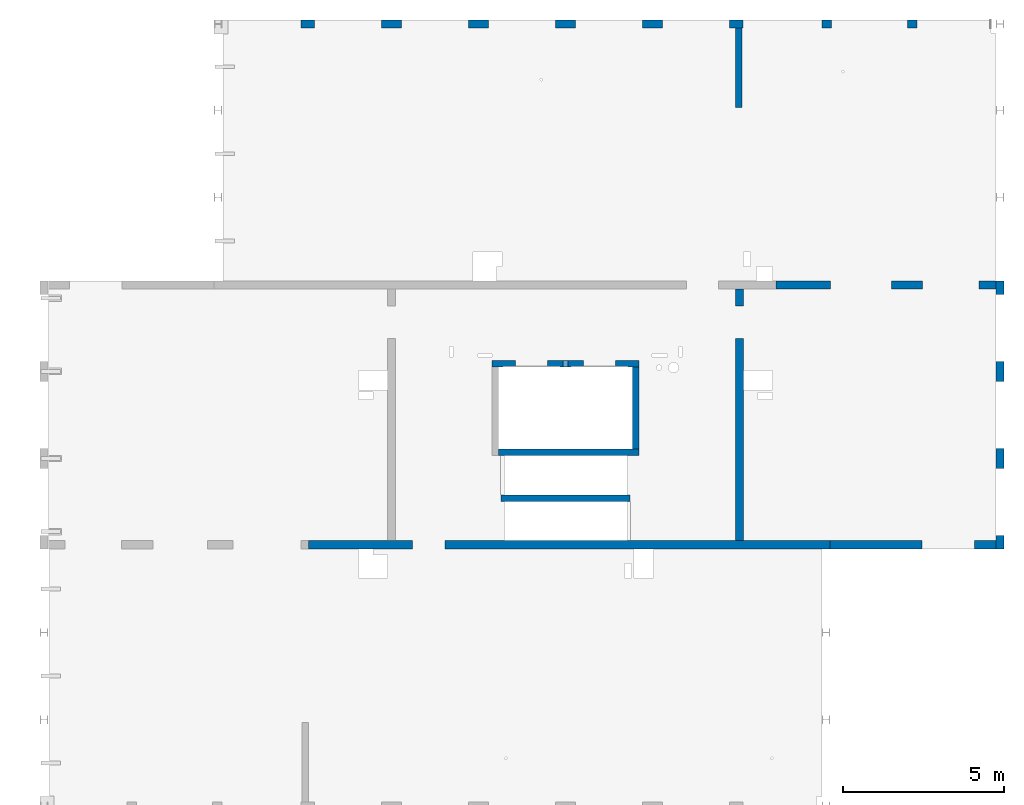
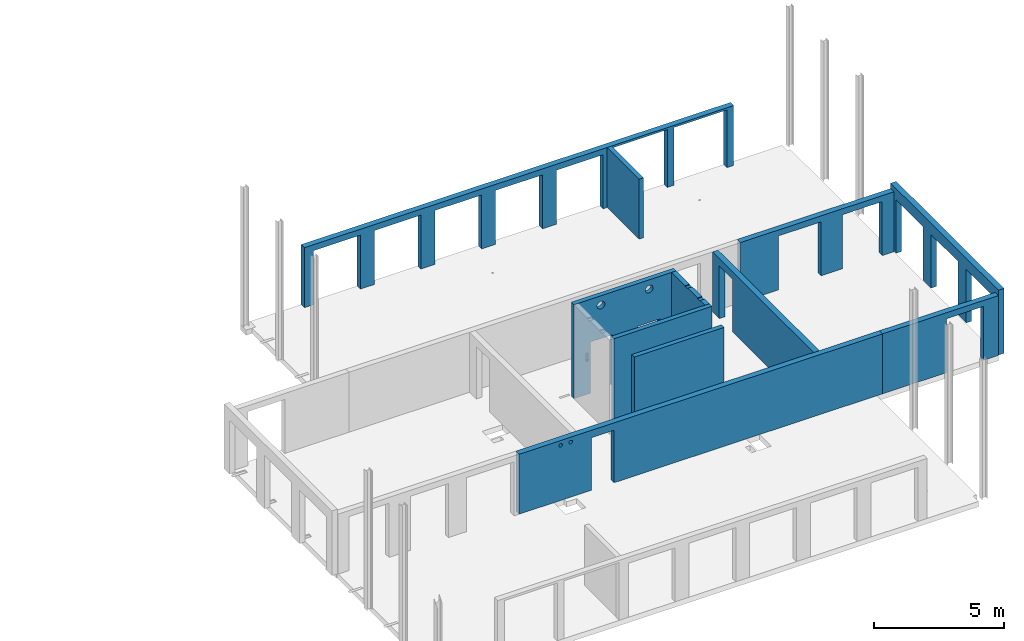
# One storey, part 8 of 10: 11 walls, 25 openings.
"""IFC2X3 building model written with IfcOpenShell, lengths in millimetres."""

import ifcopenshell
import ifcopenshell.guid

model = None  # the IFC model being written
_history = None  # IfcOwnerHistory: only IFC2X3 demands one
_inside = {}  # id of a spatial element -> (the spatial element, [elements in it])
_under = {}  # id of a project, library or spatial element -> (it, [spatial elements below it])
_declared = {}  # id of a project -> (the project, [libraries it declares])
_typed = {}  # id of a type object -> (the type object, [elements of that type])
_made_of = {}  # id of a material, layer set ... -> (it, [elements and type objects made of it])


def new_model(schema):
    """Start an empty IFC model of exactly this schema.

    Asked for "IFC4X3", IfcOpenShell would pick the latest addendum, in which some entities
    have other attributes; the version numbers below select the first issue.
    IFC2X3 requires an IfcOwnerHistory on every rooted entity: one is made here for all.
    """
    global model, _history
    if schema == "IFC4X3":
        model = ifcopenshell.file(schema_version=(4, 3, 0, 0))
    else:
        model = ifcopenshell.file(schema=schema)
    _inside.clear()
    _under.clear()
    _declared.clear()
    _typed.clear()
    _made_of.clear()
    _history = None
    if model.schema == "IFC2X3":
        org = make("IfcOrganization", Name="unknown")
        user = make(
            "IfcPersonAndOrganization",
            ThePerson=make("IfcPerson", FamilyName="unknown"),
            TheOrganization=org,
        )
        app = make(
            "IfcApplication",
            ApplicationDeveloper=org,
            Version="unknown",
            ApplicationFullName="unknown",
            ApplicationIdentifier="unknown",
        )
        _history = make(
            "IfcOwnerHistory",
            OwningUser=user,
            OwningApplication=app,
            ChangeAction="ADDED",
            CreationDate=0,
        )
    return model


def make(cls, **values):
    """One entity of the class cls with the attributes given. An attribute that is None is left unset."""
    return model.create_entity(
        cls, **{name: value for name, value in values.items() if value is not None}
    )


def entity(cls, *values):
    """Any entity or typed value of the class cls, its attributes in the order of the schema. None: left unset."""
    e = model.create_entity(cls)
    for i, value in enumerate(values):
        if value is not None:
            e[i] = value
    return e


def rooted(cls, **values):
    """An entity with a GlobalId (a new one), such as an element, a storey or a relation."""
    return make(cls, GlobalId=ifcopenshell.guid.new(), OwnerHistory=_history, **values)


def si_unit(unit_type, name, prefix=None):
    """IfcSIUnit, for example si_unit("LENGTHUNIT", "METRE", prefix="MILLI")."""
    return make("IfcSIUnit", UnitType=unit_type, Prefix=prefix, Name=name)


def converted_unit(unit_type, name, factor, base, dimensions=None, offset=None):
    """IfcConversionBasedUnit, such as the inch: factor (a typed value) times the base unit."""
    return make(
        "IfcConversionBasedUnit"
        if offset is None
        else "IfcConversionBasedUnitWithOffset",
        ConversionOffset=offset,
        Dimensions=None
        if dimensions is None
        else entity("IfcDimensionalExponents", *dimensions),
        UnitType=unit_type,
        Name=name,
        ConversionFactor=make(
            "IfcMeasureWithUnit", ValueComponent=factor, UnitComponent=base
        ),
    )


def derived_unit(unit_type, elements):
    """IfcDerivedUnit: a product of units, each with its exponent."""
    return make(
        "IfcDerivedUnit",
        Elements=[
            make("IfcDerivedUnitElement", Unit=unit, Exponent=power)
            for unit, power in elements
        ],
        UnitType=unit_type,
    )


def assignment(units):
    """IfcUnitAssignment: the units of a project."""
    return None if units is None else make("IfcUnitAssignment", Units=units)


def point(xyz):
    """IfcCartesianPoint."""
    return None if xyz is None else make("IfcCartesianPoint", Coordinates=xyz)


def direction(xyz):
    """IfcDirection."""
    return None if xyz is None else make("IfcDirection", DirectionRatios=xyz)


def frame(location, z_axis=None, x_axis=None):
    """IfcAxis2Placement3D, a coordinate frame: its origin and axes. An axis left out is left unset."""
    return make(
        "IfcAxis2Placement3D",
        Location=point(location),
        Axis=direction(z_axis),
        RefDirection=direction(x_axis),
    )


def frame_2d(location, x_axis=None):
    """IfcAxis2Placement2D, a coordinate frame in the plane: its origin and x axis."""
    return make(
        "IfcAxis2Placement2D", Location=point(location), RefDirection=direction(x_axis)
    )


def origin():
    """The frame at (0, 0, 0) with its axes left unset."""
    return frame((0.0, 0.0, 0.0))


def origin_2d_with_axis():
    """The frame at (0, 0) in the plane with the x axis (1, 0) written out."""
    return frame_2d((0.0, 0.0), x_axis=(1.0, 0.0))


def place(relative_to, where):
    """IfcLocalPlacement: puts the frame where relative to a parent placement (None: the world)."""
    return make(
        "IfcLocalPlacement", PlacementRelTo=relative_to, RelativePlacement=where
    )


def context(
    kind, dimensions, precision=None, world=None, true_north=None, identifier=None
):
    """IfcGeometricRepresentationContext, for example the 3D "Model" context."""
    return make(
        "IfcGeometricRepresentationContext",
        ContextIdentifier=identifier,
        ContextType=kind,
        CoordinateSpaceDimension=dimensions,
        Precision=precision,
        WorldCoordinateSystem=world,
        TrueNorth=true_north,
    )


def subcontext(parent, identifier, kind, view, scale=None):
    """IfcGeometricRepresentationSubContext, for example "Body" below "Model"."""
    return make(
        "IfcGeometricRepresentationSubContext",
        ContextIdentifier=identifier,
        ContextType=kind,
        ParentContext=parent,
        TargetScale=scale,
        TargetView=view,
    )


def project(units=None, contexts=None):
    """IfcProject with its units and contexts."""
    return rooted(
        "IfcProject",
        Name="project",
        RepresentationContexts=contexts,
        UnitsInContext=assignment(units),
    )


def spatial(cls, under=None, at=None, **own):
    """A site, building, storey or space (cls), placed at a placement, below another one or the project."""
    s = rooted(cls, ObjectPlacement=at, **own)
    if under is not None:
        _under.setdefault(under.id(), (under, []))[1].append(s)
    return s


def profile(cls, at=None, kind="AREA", **sizes):
    """A parametric profile (cls). Its sizes go by their IFC names, for example OverallWidth=200.0."""
    return make(cls, ProfileType=kind, Position=at, **sizes)


def rectangle(**sizes):
    """IfcRectangleProfileDef."""
    return profile("IfcRectangleProfileDef", **sizes)


def circle(**sizes):
    """IfcCircleProfileDef."""
    return profile("IfcCircleProfileDef", **sizes)


def extrude(swept, where, along, depth):
    """IfcExtrudedAreaSolid: the profile swept, set in the frame where, extruded along a direction by depth."""
    return make(
        "IfcExtrudedAreaSolid",
        SweptArea=swept,
        Position=where,
        ExtrudedDirection=direction(along),
        Depth=depth,
    )


def shape(context_of_items, identifier, shape_type, items):
    """IfcShapeRepresentation: the items that make up one representation, for example the "Body"."""
    return make(
        "IfcShapeRepresentation",
        ContextOfItems=context_of_items,
        RepresentationIdentifier=identifier,
        RepresentationType=shape_type,
        Items=items,
    )


def material(Name=None, Category=None):
    """IfcMaterial."""
    return make("IfcMaterial", Name=Name, Category=Category)


def layer(
    of_material, thickness, ventilated=None, Name=None, Category=None, Priority=None
):
    """IfcMaterialLayer: one layer of a wall or slab, of a material (None: an air gap)."""
    return make(
        "IfcMaterialLayer",
        Material=of_material,
        LayerThickness=thickness,
        IsVentilated=ventilated,
        Name=Name,
        Category=Category,
        Priority=Priority,
    )


def layer_set(layers, Name=None):
    """IfcMaterialLayerSet."""
    return make("IfcMaterialLayerSet", MaterialLayers=layers, LayerSetName=Name)


def layer_usage(for_layer_set, set_direction, sense, offset, extent=None):
    """IfcMaterialLayerSetUsage: how a layer set lies in its element."""
    return make(
        "IfcMaterialLayerSetUsage",
        ForLayerSet=for_layer_set,
        LayerSetDirection=set_direction,
        DirectionSense=sense,
        OffsetFromReferenceLine=offset,
        ReferenceExtent=extent,
    )


def made_of(thing, what):
    """Note that an element or type object is made of a material, layer set ...; save() writes the relation."""
    if what is not None:
        _made_of.setdefault(what.id(), (what, []))[1].append(thing)
    return thing


def type_object(cls, material=None, **own):
    """A type object (cls), such as IfcWallType, which elements share."""
    return made_of(rooted(cls, **own), material)


def element(
    cls,
    number,
    at=None,
    inside=None,
    cuts=None,
    type_object=None,
    material=None,
    context=None,
    identifier="Body",
    shape_type=None,
    held_by="IfcProductDefinitionShape",
    body=None,
    shapes=None,
    **own,
):
    """One element of the class cls, such as IfcWall. Its Tag is "e" and its number.

    at: its placement. inside: the storey or other place that contains it. cuts: it is an
    opening in that element (IfcRelVoidsElement). A single representation is given by context,
    identifier, shape_type and body (its items); several are given by shapes. held_by: the class
    of the entity that holds the representations. save() writes the other relations.
    """
    e = rooted(cls, Tag="e%d" % number, ObjectPlacement=at, **own)
    if body is not None:
        shapes = [shape(context, identifier, shape_type, body)]
    if shapes is not None:
        e.Representation = make(held_by, Representations=shapes)
    if inside is not None:
        _inside.setdefault(inside.id(), (inside, []))[1].append(e)
    if cuts is not None:
        rooted(
            "IfcRelVoidsElement", RelatingBuildingElement=cuts, RelatedOpeningElement=e
        )
    if type_object is not None:
        _typed.setdefault(type_object.id(), (type_object, []))[1].append(e)
    return made_of(e, material)


def aggregate(whole, parts):
    """IfcRelAggregates: a whole, such as a stair, and the parts it consists of."""
    return rooted("IfcRelAggregates", RelatingObject=whole, RelatedObjects=parts)


def save(model, path):
    """Write the relations noted so far, then the file.

    IfcRelAggregates (storeys below a building ...), IfcRelContainedInSpatialStructure (elements
    in a storey), IfcRelDefinesByType, IfcRelAssociatesMaterial and IfcRelDeclares: one each for
    every whole, place, type object, material and project.
    """
    for whole, parts in _under.values():
        aggregate(whole, parts)
    for where, things in _inside.values():
        rooted(
            "IfcRelContainedInSpatialStructure",
            RelatedElements=things,
            RelatingStructure=where,
        )
    for kind, things in _typed.values():
        rooted("IfcRelDefinesByType", RelatedObjects=things, RelatingType=kind)
    for what, things in _made_of.values():
        rooted("IfcRelAssociatesMaterial", RelatedObjects=things, RelatingMaterial=what)
    for by, libraries in _declared.values():
        rooted("IfcRelDeclares", RelatingContext=by, RelatedDefinitions=libraries)
    model.write(path)


model = new_model("IFC2X3")

# Units and contexts
model_context = context("Model", 3, precision=0.01, world=origin(), true_north=direction((6.12303176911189e-17, 1.0)))
body_context = subcontext(model_context, "Body", "Model", "MODEL_VIEW")
ifc_project = project(units=[si_unit("LENGTHUNIT", "METRE", prefix="MILLI"), si_unit("AREAUNIT", "SQUARE_METRE"), si_unit("VOLUMEUNIT", "CUBIC_METRE"), converted_unit("PLANEANGLEUNIT", "DEGREE", entity("IfcRatioMeasure", 0.0174532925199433), si_unit("PLANEANGLEUNIT", "RADIAN"), dimensions=[0, 0, 0, 0, 0, 0, 0]), si_unit("MASSUNIT", "GRAM", prefix="KILO"), derived_unit("MASSDENSITYUNIT", [(si_unit("MASSUNIT", "GRAM", prefix="KILO"), 1), (si_unit("LENGTHUNIT", "METRE"), -3)]), si_unit("TIMEUNIT", "SECOND"), si_unit("FREQUENCYUNIT", "HERTZ"), si_unit("THERMODYNAMICTEMPERATUREUNIT", "DEGREE_CELSIUS"), derived_unit("THERMALTRANSMITTANCEUNIT", [(si_unit("MASSUNIT", "GRAM", prefix="KILO"), 1), (si_unit("THERMODYNAMICTEMPERATUREUNIT", "KELVIN"), -1), (si_unit("TIMEUNIT", "SECOND"), -3)]), derived_unit("VOLUMETRICFLOWRATEUNIT", [(si_unit("LENGTHUNIT", "METRE"), 3), (si_unit("TIMEUNIT", "SECOND"), -1)]), si_unit("ELECTRICCURRENTUNIT", "AMPERE"), si_unit("ELECTRICVOLTAGEUNIT", "VOLT"), si_unit("POWERUNIT", "WATT"), si_unit("FORCEUNIT", "NEWTON", prefix="KILO"), si_unit("ILLUMINANCEUNIT", "LUX"), si_unit("LUMINOUSFLUXUNIT", "LUMEN"), si_unit("LUMINOUSINTENSITYUNIT", "CANDELA"), derived_unit("USERDEFINED", [(si_unit("MASSUNIT", "GRAM", prefix="KILO"), -1), (si_unit("LENGTHUNIT", "METRE"), -2), (si_unit("TIMEUNIT", "SECOND"), 3), (si_unit("LUMINOUSFLUXUNIT", "LUMEN"), 1)]), derived_unit("LINEARVELOCITYUNIT", [(si_unit("LENGTHUNIT", "METRE"), 1), (si_unit("TIMEUNIT", "SECOND"), -1)]), si_unit("PRESSUREUNIT", "PASCAL"), derived_unit("USERDEFINED", [(si_unit("LENGTHUNIT", "METRE"), -2), (si_unit("MASSUNIT", "GRAM", prefix="KILO"), 1), (si_unit("TIMEUNIT", "SECOND"), -2)])], contexts=[model_context])

# Site, building, storey
site_placement = place(None, origin())
site = spatial("IfcSite", under=ifc_project, at=site_placement, Name="Default", CompositionType="ELEMENT")
building_placement = place(site_placement, origin())
building = spatial("IfcBuilding", under=site, at=building_placement, Name="niet gebruiken", CompositionType="ELEMENT")
storey_placement = place(building_placement, frame((0.0, 0.0, 63090.0)))
storey = spatial("IfcBuildingStorey", under=building, at=storey_placement, Name="21 eenentwintigste verdieping", CompositionType="ELEMENT", Elevation=63090.0)

# Wall, opening
ifc_material_1 = material(Name="NLRS_f2_beton ihwg")
ifc_layer_1 = layer(ifc_material_1, 250.0)
ifc_layer_set_1 = layer_set([ifc_layer_1], Name="Basic Wall:NLRS_22.21_WA_beton ihwg d=250_gen")
ifc_layer_usage_1 = layer_usage(ifc_layer_set_1, "AXIS2", "NEGATIVE", 125.0)
wall_type_1 = type_object("IfcWallType", Name="Basic Wall:NLRS_22.21_WA_beton ihwg d=250_gen", PredefinedType="STANDARD", material=ifc_layer_set_1)
wall_1_placement = place(storey_placement, frame((97200.0, 44906.0, -90.0), z_axis=(0.0, 0.0, 1.0), x_axis=(0.0, -1.0, 0.0)))
wall_1 = element("IfcWallStandardCase", 1, at=wall_1_placement, inside=storey, type_object=wall_type_1, material=ifc_layer_usage_1, Name="Basic Wall:NLRS_22.21_WA_beton ihwg d=250_gen", ObjectType="Basic Wall:NLRS_22.21_WA_beton ihwg d=250_gen", context=body_context, shape_type="SweptSolid", body=[
    extrude(rectangle(XDim=7799.99999999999, YDim=250.000000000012, at=frame_2d((3900.0, 0.0), x_axis=(-1.0, 0.0))), origin(), (0.0, 0.0, 1.0), 2820.00000000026),
])
opening_1_placement = place(wall_1_placement, origin())
element("IfcOpeningElement", 2, at=opening_1_placement, cuts=wall_1, Name="Basic Wall:NLRS_22.21_WA_beton ihwg d=250_gen", ObjectType="Opening", context=body_context, shape_type="SweptSolid", body=[
    extrude(rectangle(XDim=2470.0, YDim=1006.0, at=frame_2d((4.43378667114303e-12, 0.0), x_axis=(1.0, 0.0))), frame((1027.0, -1649.0, 1235.0), z_axis=(0.0, 1.0, 0.0), x_axis=(0.0, 0.0, 1.0)), (0.0, 0.0, 1.0), 3048.0),
])

# Wall, openings
ifc_layer_usage_2 = layer_usage(ifc_layer_set_1, "AXIS2", "NEGATIVE", 125.0)
wall_2_placement = place(storey_placement, frame((83830.0, 36981.0, -90.0)))
wall_2 = element("IfcWallStandardCase", 3, at=wall_2_placement, inside=storey, type_object=wall_type_1, material=ifc_layer_usage_2, Name="Basic Wall:NLRS_22.21_WA_beton ihwg d=250_gen", ObjectType="Basic Wall:NLRS_22.21_WA_beton ihwg d=250_gen", context=body_context, shape_type="SweptSolid", body=[
    extrude(rectangle(XDim=16169.9999999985, YDim=250.000000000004, at=frame_2d((8084.99999999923, 0.0), x_axis=(-1.0, 0.0))), origin(), (0.0, 0.0, 1.0), 2820.00000000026),
])
opening_2_placement = place(wall_2_placement, origin())
element("IfcOpeningElement", 4, at=opening_2_placement, cuts=wall_2, Name="Basic Wall:NLRS_22.21_WA_beton ihwg d=250_gen", ObjectType="Opening", context=body_context, shape_type="SweptSolid", body=[
    extrude(rectangle(XDim=2470.0, YDim=1006.0, at=frame_2d((4.43378667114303e-12, -8.66862137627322e-12), x_axis=(1.0, 0.0))), frame((3722.0, -1649.0, 1235.0), z_axis=(0.0, 1.0, 0.0), x_axis=(0.0, 0.0, 1.0)), (0.0, 0.0, 1.0), 3048.0),
])
opening_3_placement = place(wall_2_placement, origin())
element("IfcOpeningElement", 5, at=opening_3_placement, cuts=wall_2, Name="Basic Wall:NLRS_22.21_WA_beton ihwg d=250_gen", ObjectType="Opening", context=body_context, shape_type="SweptSolid", body=[
    extrude(circle(Radius=80.0, at=origin_2d_with_axis()), frame((1845.00025861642, -125.0, 2590.0), z_axis=(0.0, 1.0, 0.0), x_axis=(1.0, 0.0, 0.0)), (0.0, 0.0, 1.0), 249.999999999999),
])
opening_4_placement = place(wall_2_placement, origin())
element("IfcOpeningElement", 6, at=opening_4_placement, cuts=wall_2, Name="Basic Wall:NLRS_22.21_WA_beton ihwg d=250_gen", ObjectType="Opening", context=body_context, shape_type="SweptSolid", body=[
    extrude(circle(Radius=80.0, at=origin_2d_with_axis()), frame((2295.00025861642, -125.0, 2590.0), z_axis=(0.0, 1.0, 0.0), x_axis=(1.0, 0.0, 0.0)), (0.0, 0.0, 1.0), 249.999999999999),
])

# Wall, opening
ifc_layer_usage_3 = layer_usage(ifc_layer_set_1, "AXIS2", "NEGATIVE", 125.0)
wall_3_placement = place(storey_placement, frame((100000.0, 36981.0, -90.0)))
wall_3 = element("IfcWallStandardCase", 7, at=wall_3_placement, inside=storey, type_object=wall_type_1, material=ifc_layer_usage_3, Name="Basic Wall:NLRS_22.21_WA_beton ihwg d=250_gen", ObjectType="Basic Wall:NLRS_22.21_WA_beton ihwg d=250_gen", context=body_context, shape_type="SweptSolid", body=[
    extrude(rectangle(XDim=5149.99999999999, YDim=250.000000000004, at=frame_2d((2575.0, 0.0), x_axis=(-1.0, 0.0))), origin(), (0.0, 0.0, 1.0), 2820.00000000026),
])
opening_5_placement = place(wall_3_placement, origin())
element("IfcOpeningElement", 8, at=opening_5_placement, cuts=wall_3, Name="Basic Wall:NLRS_22.21_WA_beton ihwg d=250_gen", ObjectType="Opening", context=body_context, shape_type="SweptSolid", body=[
    extrude(rectangle(XDim=2540.0, YDim=1639.99999999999, at=frame_2d((-4.32009983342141e-12, -8.69704308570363e-12), x_axis=(1.0, 0.0))), frame((3670.0, -1649.0, 1270.0), z_axis=(0.0, 1.0, 0.0), x_axis=(0.0, 0.0, 1.0)), (0.0, 0.0, 1.0), 3048.0),
])

# Wall, openings
ifc_layer_usage_4 = layer_usage(ifc_layer_set_1, "AXIS2", "NEGATIVE", 125.0)
wall_4_placement = place(storey_placement, frame((98325.0, 45031.0, -90.0)))
wall_4 = element("IfcWallStandardCase", 9, at=wall_4_placement, inside=storey, type_object=wall_type_1, material=ifc_layer_usage_4, Name="Basic Wall:NLRS_22.21_WA_beton ihwg d=250_gen", ObjectType="Basic Wall:NLRS_22.21_WA_beton ihwg d=250_gen", context=body_context, shape_type="SweptSolid", body=[
    extrude(rectangle(XDim=6824.99999999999, YDim=249.999999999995, at=frame_2d((3412.5, 0.0), x_axis=(-1.0, 0.0))), origin(), (0.0, 0.0, 1.0), 2820.00000000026),
])
opening_6_placement = place(wall_4_placement, origin())
element("IfcOpeningElement", 10, at=opening_6_placement, cuts=wall_4, Name="Basic Wall:NLRS_22.21_WA_beton ihwg d=250_gen", ObjectType="Opening", context=body_context, shape_type="SweptSolid", body=[
    extrude(rectangle(XDim=2540.0, YDim=1765.0, at=frame_2d((-4.32009983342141e-12, 0.0), x_axis=(1.0, 0.0))), frame((5422.5000329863, -1649.0, 1270.0), z_axis=(0.0, 1.0, 0.0), x_axis=(0.0, 0.0, 1.0)), (0.0, 0.0, 1.0), 3048.0),
])
opening_7_placement = place(wall_4_placement, origin())
element("IfcOpeningElement", 11, at=opening_7_placement, cuts=wall_4, Name="Basic Wall:NLRS_22.21_WA_beton ihwg d=250_gen", ObjectType="Opening", context=body_context, shape_type="SweptSolid", body=[
    extrude(rectangle(XDim=2540.0, YDim=1885.0, at=frame_2d((-4.32009983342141e-12, 0.0), x_axis=(1.0, 0.0))), frame((2642.49999999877, -1649.0, 1270.0), z_axis=(0.0, 1.0, 0.0), x_axis=(0.0, 0.0, 1.0)), (0.0, 0.0, 1.0), 3048.0),
])

ifc_material_2 = material(Name="NLRS_f2_beton prefab")
ifc_layer_2 = layer(ifc_material_2, 250.0)
ifc_layer_set_2 = layer_set([ifc_layer_2], Name="Basic Wall:NLRS_21.21_WA_beton prefab d=250_gen")
ifc_layer_usage_5 = layer_usage(ifc_layer_set_2, "AXIS2", "POSITIVE", -125.0)
wall_type_2 = type_object("IfcWallType", Name="Basic Wall:NLRS_21.21_WA_beton prefab d=250_gen", PredefinedType="STANDARD", material=ifc_layer_set_2)
wall_5_placement = place(storey_placement, frame((105275.0, 45156.0, -70.0), z_axis=(0.0, 0.0, 1.0), x_axis=(0.0, -1.0, 0.0)))
wall_5 = element("IfcWallStandardCase", 12, at=wall_5_placement, inside=storey, type_object=wall_type_2, material=ifc_layer_usage_5, Name="Basic Wall:NLRS_21.21_WA_beton prefab d=250_gen", ObjectType="Basic Wall:NLRS_21.21_WA_beton prefab d=250_gen", context=body_context, shape_type="SweptSolid", body=[
    extrude(rectangle(XDim=8300.00000000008, YDim=250.000000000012, at=frame_2d((4150.00000000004, 0.0), x_axis=(-1.0, 0.0))), origin(), (0.0, 0.0, 1.0), 3050.0),
])
opening_8_placement = place(wall_5_placement, origin())
element("IfcOpeningElement", 13, at=opening_8_placement, cuts=wall_5, Name="Basic Wall:NLRS_21.21_WA_beton prefab d=250_gen", ObjectType="Opening", context=body_context, shape_type="SweptSolid", body=[
    extrude(rectangle(XDim=2540.0, YDim=2080.0, at=frame_2d((0.0, 4.32009983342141e-12), x_axis=(0.0, 1.0))), frame((1450.0, -1649.0, 1250.0), z_axis=(0.0, 1.0, 0.0), x_axis=(-1.0, 0.0, 0.0)), (0.0, 0.0, 1.0), 3048.0),
])
opening_9_placement = place(wall_5_placement, origin())
element("IfcOpeningElement", 14, at=opening_9_placement, cuts=wall_5, Name="Basic Wall:NLRS_21.21_WA_beton prefab d=250_gen", ObjectType="Opening", context=body_context, shape_type="SweptSolid", body=[
    extrude(rectangle(XDim=2540.0, YDim=2080.0, at=frame_2d((0.0, 4.32009983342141e-12), x_axis=(0.0, 1.0))), frame((4150.0, -1649.0, 1250.0), z_axis=(0.0, 1.0, 0.0), x_axis=(-1.0, 0.0, 0.0)), (0.0, 0.0, 1.0), 3048.0),
])
opening_10_placement = place(wall_5_placement, origin())
element("IfcOpeningElement", 15, at=opening_10_placement, cuts=wall_5, Name="Basic Wall:NLRS_21.21_WA_beton prefab d=250_gen", ObjectType="Opening", context=body_context, shape_type="SweptSolid", body=[
    extrude(rectangle(XDim=2540.0, YDim=2080.0, at=frame_2d((0.0, 4.32009983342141e-12), x_axis=(0.0, 1.0))), frame((6850.0, -1649.0, 1250.0), z_axis=(0.0, 1.0, 0.0), x_axis=(-1.0, 0.0, 0.0)), (0.0, 0.0, 1.0), 3048.0),
])

# Wall
ifc_layer_3 = layer(ifc_material_2, 200.0)
ifc_layer_set_3 = layer_set([ifc_layer_3], Name="Basic Wall:NLRS_21.21_WA_beton prefab d=200_gen")
ifc_layer_usage_6 = layer_usage(ifc_layer_set_3, "AXIS2", "NEGATIVE", 100.0)
wall_type_3 = type_object("IfcWallType", Name="Basic Wall:NLRS_21.21_WA_beton prefab d=200_gen", PredefinedType="STANDARD", material=ifc_layer_set_3)
wall_6_placement = place(storey_placement, frame((89800.0, 38426.0, -70.0)))
element("IfcWallStandardCase", 16, at=wall_6_placement, inside=storey, type_object=wall_type_3, material=ifc_layer_usage_6, Name="Basic Wall:NLRS_21.21_WA_beton prefab d=200_gen", ObjectType="Basic Wall:NLRS_21.21_WA_beton prefab d=200_gen", context=body_context, shape_type="SweptSolid", body=[
    extrude(rectangle(XDim=3999.99999999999, YDim=199.999999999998, at=frame_2d((2000.0, -2.48689957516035e-13), x_axis=(-1.0, 0.0))), origin(), (0.0, 0.0, 1.0), 4390.00000000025),
])

# Wall, openings
ifc_layer_4 = layer(ifc_material_2, 200.0)
ifc_layer_set_4 = layer_set([ifc_layer_4], Name="Basic Wall:NLRS_22.21_WA_beton prefab d=200_gen")
ifc_layer_usage_7 = layer_usage(ifc_layer_set_4, "AXIS2", "NEGATIVE", 100.0)
wall_type_4 = type_object("IfcWallType", Name="Basic Wall:NLRS_22.21_WA_beton prefab d=200_gen", PredefinedType="STANDARD", material=ifc_layer_set_4)
wall_7_placement = place(storey_placement, frame((89525.0, 42596.0, -70.0)))
wall_7 = element("IfcWallStandardCase", 17, at=wall_7_placement, inside=storey, type_object=wall_type_4, material=ifc_layer_usage_7, Name="Basic Wall:NLRS_22.21_WA_beton prefab d=200_gen", ObjectType="Basic Wall:NLRS_22.21_WA_beton prefab d=200_gen", context=body_context, shape_type="SweptSolid", body=[
    extrude(rectangle(XDim=4550.00000000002, YDim=200.000000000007, at=frame_2d((2275.00000000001, 7.8159700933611e-13), x_axis=(-1.0, 0.0))), origin(), (0.0, 0.0, 1.0), 4420.00000000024),
])
opening_11_placement = place(wall_7_placement, origin())
element("IfcOpeningElement", 18, at=opening_11_placement, cuts=wall_7, Name="Basic Wall:NLRS_22.21_WA_beton prefab d=200_gen", ObjectType="Opening", context=body_context, shape_type="SweptSolid", body=[
    extrude(rectangle(XDim=2430.0, YDim=980.000000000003, at=frame_2d((0.0, 8.66862137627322e-12), x_axis=(1.0, 0.0))), frame((3329.99984910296, -1624.0, 1195.0), z_axis=(0.0, 1.0, 0.0), x_axis=(0.0, 0.0, 1.0)), (0.0, 0.0, 1.0), 3048.0),
])
opening_12_placement = place(wall_7_placement, origin())
element("IfcOpeningElement", 19, at=opening_12_placement, cuts=wall_7, Name="Basic Wall:NLRS_22.21_WA_beton prefab d=200_gen", ObjectType="Opening", context=body_context, shape_type="SweptSolid", body=[
    extrude(rectangle(XDim=2430.0, YDim=980.000000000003, at=frame_2d((0.0, -8.66862137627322e-12), x_axis=(1.0, 0.0))), frame((1219.99984910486, -1624.0, 1195.0), z_axis=(0.0, 1.0, 0.0), x_axis=(0.0, 0.0, 1.0)), (0.0, 0.0, 1.0), 3048.0),
])
opening_13_placement = place(wall_7_placement, origin())
element("IfcOpeningElement", 20, at=opening_13_placement, cuts=wall_7, Name="Basic Wall:NLRS_22.21_WA_beton prefab d=200_gen", ObjectType="Opening", context=body_context, shape_type="SweptSolid", body=[
    extrude(rectangle(XDim=515.000000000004, YDim=159.999999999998, at=origin_2d_with_axis()), frame((2275.0, -1624.0, 1277.50000000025), z_axis=(0.0, 1.0, 0.0), x_axis=(0.0, 0.0, 1.0)), (0.0, 0.0, 1.0), 3048.0),
])
opening_14_placement = place(wall_7_placement, origin())
element("IfcOpeningElement", 21, at=opening_14_placement, cuts=wall_7, Name="Basic Wall:NLRS_22.21_WA_beton prefab d=200_gen", ObjectType="Opening", context=body_context, shape_type="SweptSolid", body=[
    extrude(rectangle(XDim=370.000000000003, YDim=89.9999999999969, at=frame_2d((8.66862137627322e-12, 8.66506866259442e-12), x_axis=(1.0, 0.0))), frame((569.99984910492, -1424.0, 1755.0), z_axis=(0.0, 1.0, 0.0), x_axis=(0.0, 0.0, 1.0)), (0.0, 0.0, 1.0), 3048.0),
])
opening_15_placement = place(wall_7_placement, origin())
element("IfcOpeningElement", 22, at=opening_15_placement, cuts=wall_7, Name="Basic Wall:NLRS_22.21_WA_beton prefab d=200_gen", ObjectType="Opening", context=body_context, shape_type="SweptSolid", body=[
    extrude(circle(Radius=175.0, at=origin_2d_with_axis()), frame((1200.0, -100.0, 3980.0), z_axis=(0.0, 1.0, 0.0), x_axis=(1.0, 0.0, 0.0)), (0.0, 0.0, 1.0), 199.999999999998),
])
opening_16_placement = place(wall_7_placement, origin())
element("IfcOpeningElement", 23, at=opening_16_placement, cuts=wall_7, Name="Basic Wall:NLRS_22.21_WA_beton prefab d=200_gen", ObjectType="Opening", context=body_context, shape_type="SweptSolid", body=[
    extrude(circle(Radius=175.0, at=origin_2d_with_axis()), frame((3350.0, -100.0, 3980.0), z_axis=(0.0, 1.0, 0.0), x_axis=(1.0, 0.0, 0.0)), (0.0, 0.0, 1.0), 199.999999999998),
])

# Wall
ifc_layer_usage_8 = layer_usage(ifc_layer_set_4, "AXIS2", "NEGATIVE", 100.0)
wall_8_placement = place(storey_placement, frame((94075.0, 39846.0, -70.0), z_axis=(0.0, 0.0, 1.0), x_axis=(-1.0, 0.0, 0.0)))
element("IfcWallStandardCase", 24, at=wall_8_placement, inside=storey, type_object=wall_type_4, material=ifc_layer_usage_8, Name="Basic Wall:NLRS_22.21_WA_beton prefab d=200_gen", ObjectType="Basic Wall:NLRS_22.21_WA_beton prefab d=200_gen", context=body_context, shape_type="SweptSolid", body=[
    extrude(rectangle(XDim=4350.00000000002, YDim=200.000000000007, at=frame_2d((2175.00000000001, 0.0), x_axis=(-1.0, 0.0))), origin(), (0.0, 0.0, 1.0), 4420.00000000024),
])

# Wall, openings
ifc_layer_usage_9 = layer_usage(ifc_layer_set_4, "AXIS2", "NEGATIVE", 100.0)
wall_9_placement = place(storey_placement, frame((93975.0, 39946.0, -70.0), z_axis=(0.0, 0.0, 1.0), x_axis=(0.0, 1.0, 0.0)))
wall_9 = element("IfcWallStandardCase", 25, at=wall_9_placement, inside=storey, type_object=wall_type_4, material=ifc_layer_usage_9, Name="Basic Wall:NLRS_22.21_WA_beton prefab d=200_gen", ObjectType="Basic Wall:NLRS_22.21_WA_beton prefab d=200_gen", context=body_context, shape_type="SweptSolid", body=[
    extrude(rectangle(XDim=2549.99999999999, YDim=199.999999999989, at=frame_2d((1275.0, 0.0), x_axis=(-1.0, 0.0))), origin(), (0.0, 0.0, 1.0), 4420.00000000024),
])
opening_17_placement = place(wall_9_placement, origin())
element("IfcOpeningElement", 26, at=opening_17_placement, cuts=wall_9, Name="Basic Wall:NLRS_22.21_WA_beton prefab d=200_gen", ObjectType="Opening", context=body_context, shape_type="SweptSolid", body=[
    extrude(rectangle(XDim=140.000000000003, YDim=199.999999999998, at=frame_2d((0.0, -4.33431068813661e-12), x_axis=(1.0, 0.0))), frame((1417.0, -1624.0, 4450.0), z_axis=(0.0, 1.0, 0.0), x_axis=(0.0, 0.0, 1.0)), (0.0, 0.0, 1.0), 3048.0),
])
opening_18_placement = place(wall_9_placement, origin())
element("IfcOpeningElement", 27, at=opening_18_placement, cuts=wall_9, Name="Basic Wall:NLRS_22.21_WA_beton prefab d=200_gen", ObjectType="Opening", context=body_context, shape_type="SweptSolid", body=[
    extrude(rectangle(XDim=140.000000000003, YDim=199.999999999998, at=frame_2d((0.0, 4.33431068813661e-12), x_axis=(1.0, 0.0))), frame((467.0, -1624.0, 4450.0), z_axis=(0.0, 1.0, 0.0), x_axis=(0.0, 0.0, 1.0)), (0.0, 0.0, 1.0), 3048.0),
])

ifc_layer_5 = layer(ifc_material_1, 250.0)
ifc_layer_set_5 = layer_set([ifc_layer_5], Name="Basic Wall:NLRS_21.21_WA_beton ihwg d=250_gen")
ifc_layer_usage_10 = layer_usage(ifc_layer_set_5, "AXIS2", "NEGATIVE", 125.0)
wall_type_5 = type_object("IfcWallType", Name="Basic Wall:NLRS_21.21_WA_beton ihwg d=250_gen", PredefinedType="STANDARD", material=ifc_layer_set_5)
wall_10_placement = place(storey_placement, frame((102700.0, 53131.0, -90.0), z_axis=(0.0, 0.0, 1.0), x_axis=(-1.0, 0.0, 0.0)))
wall_10 = element("IfcWallStandardCase", 28, at=wall_10_placement, inside=storey, type_object=wall_type_5, material=ifc_layer_usage_10, Name="Basic Wall:NLRS_21.21_WA_beton ihwg d=250_gen", ObjectType="Basic Wall:NLRS_21.21_WA_beton ihwg d=250_gen", context=body_context, shape_type="SweptSolid", body=[
    extrude(rectangle(XDim=19100.0, YDim=249.999999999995, at=frame_2d((9549.99999999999, 7.105427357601e-13), x_axis=(-1.0, 0.0))), origin(), (0.0, 0.0, 1.0), 2819.99999999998),
])
opening_19_placement = place(wall_10_placement, origin())
element("IfcOpeningElement", 29, at=opening_19_placement, cuts=wall_10, Name="Basic Wall:NLRS_21.21_WA_beton ihwg d=250_gen", ObjectType="Opening", context=body_context, shape_type="SweptSolid", body=[
    extrude(rectangle(XDim=2540.0, YDim=2080.0, at=frame_2d((8.64019966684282e-12, 4.32009983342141e-12), x_axis=(0.0, 1.0))), frame((17650.0, -1399.0, 1270.0), z_axis=(0.0, 1.0, 0.0), x_axis=(-1.0, 0.0, 0.0)), (0.0, 0.0, 1.0), 3048.0),
])
opening_20_placement = place(wall_10_placement, origin())
element("IfcOpeningElement", 30, at=opening_20_placement, cuts=wall_10, Name="Basic Wall:NLRS_21.21_WA_beton ihwg d=250_gen", ObjectType="Opening", context=body_context, shape_type="SweptSolid", body=[
    extrude(rectangle(XDim=2540.0, YDim=2080.0, at=frame_2d((8.64019966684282e-12, 4.32009983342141e-12), x_axis=(0.0, 1.0))), frame((14950.0, -1399.0, 1270.0), z_axis=(0.0, 1.0, 0.0), x_axis=(-1.0, 0.0, 0.0)), (0.0, 0.0, 1.0), 3048.0),
])
opening_21_placement = place(wall_10_placement, origin())
element("IfcOpeningElement", 31, at=opening_21_placement, cuts=wall_10, Name="Basic Wall:NLRS_21.21_WA_beton ihwg d=250_gen", ObjectType="Opening", context=body_context, shape_type="SweptSolid", body=[
    extrude(rectangle(XDim=2540.0, YDim=2080.0, at=frame_2d((-8.64019966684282e-12, 4.32009983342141e-12), x_axis=(0.0, 1.0))), frame((12250.0, -1399.0, 1270.0), z_axis=(0.0, 1.0, 0.0), x_axis=(-1.0, 0.0, 0.0)), (0.0, 0.0, 1.0), 3048.0),
])
opening_22_placement = place(wall_10_placement, origin())
element("IfcOpeningElement", 32, at=opening_22_placement, cuts=wall_10, Name="Basic Wall:NLRS_21.21_WA_beton ihwg d=250_gen", ObjectType="Opening", context=body_context, shape_type="SweptSolid", body=[
    extrude(rectangle(XDim=2540.0, YDim=2080.0, at=frame_2d((8.64019966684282e-12, 4.32009983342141e-12), x_axis=(0.0, 1.0))), frame((9550.0, -1399.0, 1270.0), z_axis=(0.0, 1.0, 0.0), x_axis=(-1.0, 0.0, 0.0)), (0.0, 0.0, 1.0), 3048.0),
])
opening_23_placement = place(wall_10_placement, origin())
element("IfcOpeningElement", 33, at=opening_23_placement, cuts=wall_10, Name="Basic Wall:NLRS_21.21_WA_beton ihwg d=250_gen", ObjectType="Opening", context=body_context, shape_type="SweptSolid", body=[
    extrude(rectangle(XDim=2540.0, YDim=2080.0, at=frame_2d((8.64019966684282e-12, 4.32009983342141e-12), x_axis=(0.0, 1.0))), frame((6850.0, -1399.0, 1270.0), z_axis=(0.0, 1.0, 0.0), x_axis=(-1.0, 0.0, 0.0)), (0.0, 0.0, 1.0), 3048.0),
])
opening_24_placement = place(wall_10_placement, origin())
element("IfcOpeningElement", 34, at=opening_24_placement, cuts=wall_10, Name="Basic Wall:NLRS_21.21_WA_beton ihwg d=250_gen", ObjectType="Opening", context=body_context, shape_type="SweptSolid", body=[
    extrude(rectangle(XDim=2720.00000000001, YDim=2450.0, at=frame_2d((0.0, 0.0), x_axis=(0.0, 1.0))), frame((4175.0, -1399.0, 1360.0), z_axis=(0.0, 1.0, 0.0), x_axis=(-1.0, 0.0, 0.0)), (0.0, 0.0, 1.0), 3048.0),
])
opening_25_placement = place(wall_10_placement, origin())
element("IfcOpeningElement", 35, at=opening_25_placement, cuts=wall_10, Name="Basic Wall:NLRS_21.21_WA_beton ihwg d=250_gen", ObjectType="Opening", context=body_context, shape_type="SweptSolid", body=[
    extrude(rectangle(XDim=2720.00000000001, YDim=2350.0, at=frame_2d((8.64019966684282e-12, 0.0), x_axis=(0.0, 1.0))), frame((1475.0, -1399.0, 1360.0), z_axis=(0.0, 1.0, 0.0), x_axis=(-1.0, 0.0, 0.0)), (0.0, 0.0, 1.0), 3048.0),
])

# Wall
ifc_layer_6 = layer(ifc_material_1, 200.0)
ifc_layer_set_6 = layer_set([ifc_layer_6], Name="Basic Wall:NLRS_22.21_WA_beton ihwg d=200_gen")
ifc_layer_usage_11 = layer_usage(ifc_layer_set_6, "AXIS2", "NEGATIVE", 100.0)
wall_type_6 = type_object("IfcWallType", Name="Basic Wall:NLRS_22.21_WA_beton ihwg d=200_gen", PredefinedType="STANDARD", material=ifc_layer_set_6)
wall_11_placement = place(storey_placement, frame((97173.0, 50546.0, -90.0), z_axis=(0.0, 0.0, 1.0), x_axis=(0.0, 1.0, 0.0)))
element("IfcWallStandardCase", 36, at=wall_11_placement, inside=storey, type_object=wall_type_6, material=ifc_layer_usage_11, Name="Basic Wall:NLRS_22.21_WA_beton ihwg d=200_gen", ObjectType="Basic Wall:NLRS_22.21_WA_beton ihwg d=200_gen", context=body_context, shape_type="SweptSolid", body=[
    extrude(rectangle(XDim=2460.00000000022, YDim=199.999999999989, at=frame_2d((1230.00000000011, 3.59534624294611e-12), x_axis=(-1.0, 0.0))), origin(), (0.0, 0.0, 1.0), 2820.00000000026),
])

save(model, "model.ifc")
